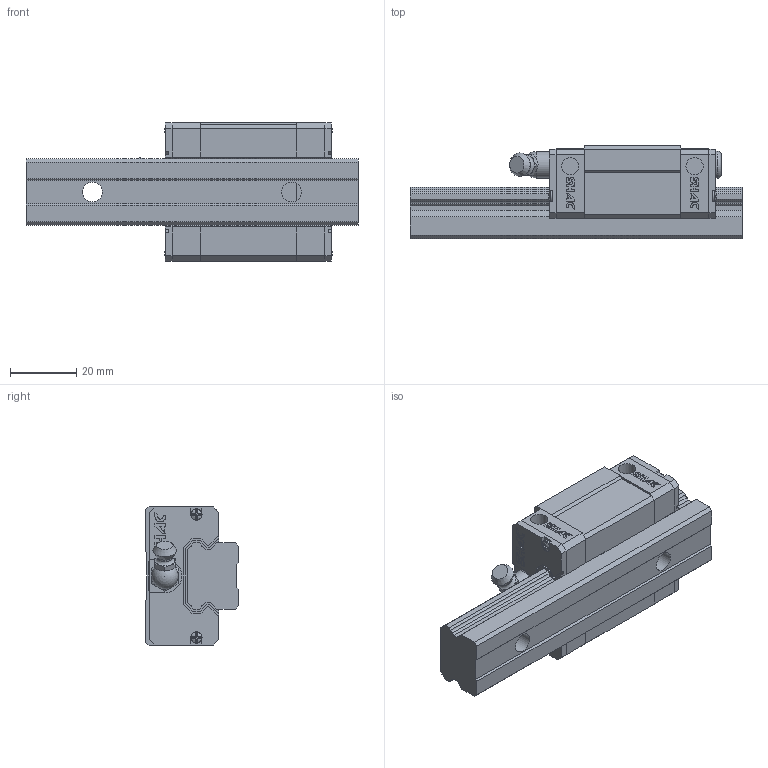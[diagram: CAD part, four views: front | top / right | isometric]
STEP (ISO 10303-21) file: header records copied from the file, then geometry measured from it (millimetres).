
FILE_DESCRIPTION( ( 'STEP AP214' ), '1' );
FILE_NAME( 'F:/品牌/SHAC 台湾鼎翰传动科技有限公司/3D滑块/GEH20SA1R100Z0C-20_20_1__.stp', '2025-04-21T22:50:29', ( 'License CC BY-ND 4.0' ), ( 'CADENAS' ), ' ', 'PARTsolutions', ' ' );
FILE_SCHEMA( ( 'AUTOMOTIVE_DESIGN { 1 0 10303 214 1 1 1 1 }' ) );
Length unit declared in the file: millimetre
Products named in the file (8): GEH20SA1R100Z0C-20/20(1_); _GE20SR100-20/20(2)_RAIL; _GEH20SA_slider; _GES20_C; _GES20_P; _GH20_SCREW; _GH20_BOLT; _GH20-_G
Assembly tree (12 placements, depth 2):
  GEH20SA1R100Z0C-20/20(1_)
    _GE20SR100-20/20(2)_RAIL
    _GEH20SA_slider
    _GES20_C  x2
    _GES20_P  x2
    _GH20_SCREW  x4
    _GH20_BOLT
    _GH20-_G
Bounding box: 100 x 28 x 42 mm (x, y, z)
Volume: 62584.4 mm3; surface area: 24595 mm2
Topology: 12 solids, 12 shells, 744 faces, 2007 edges, 1329 vertices
Faces by surface type: plane 615, cylinder 99, cone 18, torus 6, sphere 5, bspline 1
Full cylindrical faces by diameter (mm): 2.3 x4, 3.414 x4, 4.134 x2, 4.5 x1, 5.2 x4, 6 x4, 6.5 x2, 7.2 x2, 8 x1, 8.2 x1, 9.5 x2
Entity records: 17309 total; most frequent: CARTESIAN_POINT 2572, ORIENTED_EDGE 2298, DIRECTION 2184, EDGE_CURVE 1149, LINE 964, VECTOR 964, VERTEX_POINT 778, AXIS2_PLACEMENT_3D 610
